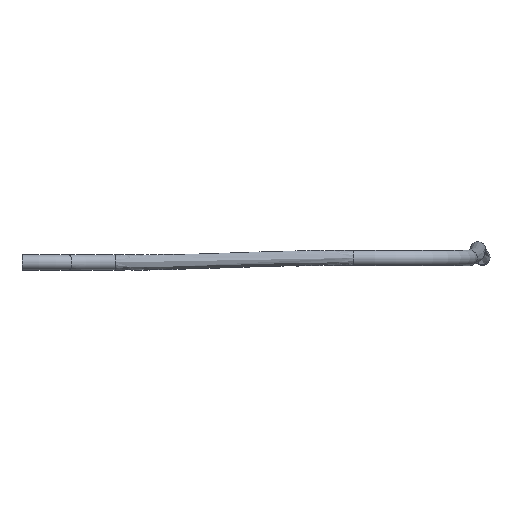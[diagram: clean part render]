
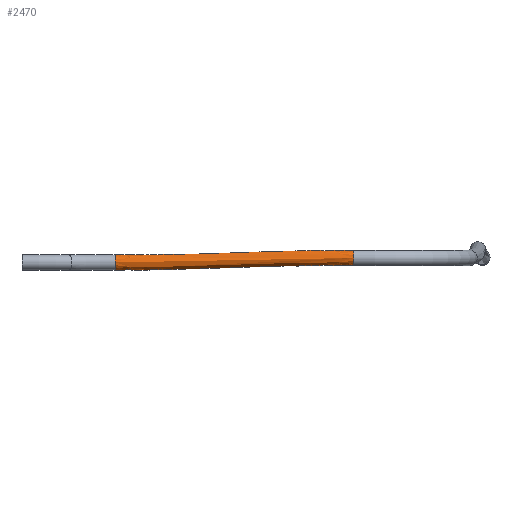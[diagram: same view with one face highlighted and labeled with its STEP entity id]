
A CAD part, front view. The second image highlights one B-rep face of the part: STEP entity #2470.
In plain terms, the highlighted free-form (B-spline) face has degree [6, 8] with [7, 9] control points.
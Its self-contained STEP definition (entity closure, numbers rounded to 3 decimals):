
#2449 = VERTEX_POINT('',#2450);
#2450 = CARTESIAN_POINT('',(-4.5,-16.412,1.387));
#2457 = EDGE_CURVE('',#2449,#2449,#2458,.T.);
#2458 = CIRCLE('',#2459,0.3);
#2459 = AXIS2_PLACEMENT_3D('',#2460,#2461,#2462);
#2460 = CARTESIAN_POINT('',(-4.5,-16.113,1.388));
#2461 = DIRECTION('',(1.,0.,0.));
#2462 = DIRECTION('',(0.,-1.,0.));
#2470 = ADVANCED_FACE('',(#2471),#2499,.T.);
#2471 = FACE_BOUND('',#2472,.T.);
#2472 = EDGE_LOOP('',(#2473,#2487,#2497,#2498));
#2473 = ORIENTED_EDGE('',*,*,#2474,.T.);
#2474 = EDGE_CURVE('',#2449,#2475,#2477,.T.);
#2475 = VERTEX_POINT('',#2476);
#2476 = CARTESIAN_POINT('',(-13.8,-16.412,1.212));
#2477 = ( BOUNDED_CURVE() B_SPLINE_CURVE(8,(#2478,#2479,#2480,#2481,
    #2482,#2483,#2484,#2485,#2486),.UNSPECIFIED.,.F.,.F.) 
B_SPLINE_CURVE_WITH_KNOTS((9,9),(0.,1.),.PIECEWISE_BEZIER_KNOTS.) CURVE(
) GEOMETRIC_REPRESENTATION_ITEM() RATIONAL_B_SPLINE_CURVE((
    1.669,1.669,1.669,1.669,
    1.669,1.669,1.669,1.669,
1.669)) REPRESENTATION_ITEM('') );
#2478 = CARTESIAN_POINT('',(-4.5,-16.412,1.387));
#2479 = CARTESIAN_POINT('',(-5.663,-16.412,1.387));
#2480 = CARTESIAN_POINT('',(-6.825,-16.412,
    1.387));
#2481 = CARTESIAN_POINT('',(-7.987,-16.412,
    1.356));
#2482 = CARTESIAN_POINT('',(-9.15,-16.412,
    1.3));
#2483 = CARTESIAN_POINT('',(-10.312,-16.412,
    1.244));
#2484 = CARTESIAN_POINT('',(-11.475,-16.412,
    1.212));
#2485 = CARTESIAN_POINT('',(-12.638,-16.412,1.212));
#2486 = CARTESIAN_POINT('',(-13.8,-16.412,1.212));
#2487 = ORIENTED_EDGE('',*,*,#2488,.F.);
#2488 = EDGE_CURVE('',#2475,#2475,#2489,.T.);
#2489 = ( BOUNDED_CURVE() B_SPLINE_CURVE(6,(#2490,#2491,#2492,#2493,
#2494,#2495,#2496),.UNSPECIFIED.,.T.,.F.) B_SPLINE_CURVE_WITH_KNOTS((1,6
    ,6,1),(-6.283,0.,6.283,12.566),
.UNSPECIFIED.) CURVE() GEOMETRIC_REPRESENTATION_ITEM() 
RATIONAL_B_SPLINE_CURVE((1.669,1.037,1.038,
    0.854,1.038,1.037,1.669)) 
REPRESENTATION_ITEM('') );
#2490 = CARTESIAN_POINT('',(-13.8,-16.412,1.212));
#2491 = CARTESIAN_POINT('',(-13.8,-16.413,1.711));
#2492 = CARTESIAN_POINT('',(-13.8,-15.797,1.783));
#2493 = CARTESIAN_POINT('',(-13.8,-15.288,1.213));
#2494 = CARTESIAN_POINT('',(-13.8,-15.796,0.643));
#2495 = CARTESIAN_POINT('',(-13.8,-16.412,0.714));
#2496 = CARTESIAN_POINT('',(-13.8,-16.412,1.212));
#2497 = ORIENTED_EDGE('',*,*,#2474,.F.);
#2498 = ORIENTED_EDGE('',*,*,#2457,.F.);
#2499 = ( BOUNDED_SURFACE() B_SPLINE_SURFACE(6,8,(
    (#2500,#2501,#2502,#2503,#2504,#2505,#2506,#2507,#2508)
    ,(#2509,#2510,#2511,#2512,#2513,#2514,#2515,#2516,#2517)
    ,(#2518,#2519,#2520,#2521,#2522,#2523,#2524,#2525,#2526)
    ,(#2527,#2528,#2529,#2530,#2531,#2532,#2533,#2534,#2535)
    ,(#2536,#2537,#2538,#2539,#2540,#2541,#2542,#2543,#2544)
    ,(#2545,#2546,#2547,#2548,#2549,#2550,#2551,#2552,#2553)
    ,(#2554,#2555,#2556,#2557,#2558,#2559,#2560,#2561,#2562
)),.UNSPECIFIED.,.T.,.F.,.F.) B_SPLINE_SURFACE_WITH_KNOTS((1,6,6,1),(9,9
    ),(-6.283,0.,6.283,12.566),(0.,1.),
.UNSPECIFIED.) GEOMETRIC_REPRESENTATION_ITEM() RATIONAL_B_SPLINE_SURFACE
((
    (1.669,1.669,1.669,1.669
      ,1.669,1.669,1.669,1.669
      ,1.669)
    ,(1.037,1.037,1.037,1.037
      ,1.037,1.037,1.037,1.037
      ,1.037)
    ,(1.038,1.038,1.038,1.038
      ,1.038,1.038,1.038,1.038
      ,1.038)
    ,(0.854,0.854,0.854,0.854
      ,0.854,0.854,0.854,0.854
      ,0.854)
    ,(1.038,1.038,1.038,1.038
      ,1.038,1.038,1.038,1.038
      ,1.038)
    ,(1.037,1.037,1.037,1.037
      ,1.037,1.037,1.037,1.037
      ,1.037)
    ,(1.669,1.669,1.669,1.669
      ,1.669,1.669,1.669,1.669
,1.669))) REPRESENTATION_ITEM('') SURFACE() );
#2500 = CARTESIAN_POINT('',(-4.5,-16.412,1.387));
#2501 = CARTESIAN_POINT('',(-5.663,-16.412,1.387));
#2502 = CARTESIAN_POINT('',(-6.825,-16.412,
    1.387));
#2503 = CARTESIAN_POINT('',(-7.987,-16.412,
    1.356));
#2504 = CARTESIAN_POINT('',(-9.15,-16.412,
    1.3));
#2505 = CARTESIAN_POINT('',(-10.312,-16.412,
    1.244));
#2506 = CARTESIAN_POINT('',(-11.475,-16.412,
    1.212));
#2507 = CARTESIAN_POINT('',(-12.638,-16.412,1.212));
#2508 = CARTESIAN_POINT('',(-13.8,-16.412,1.212));
#2509 = CARTESIAN_POINT('',(-4.5,-16.413,1.886));
#2510 = CARTESIAN_POINT('',(-5.663,-16.413,1.886));
#2511 = CARTESIAN_POINT('',(-6.835,-16.413,
    1.886));
#2512 = CARTESIAN_POINT('',(-8.008,-16.413,
    1.854));
#2513 = CARTESIAN_POINT('',(-9.174,-16.413,
    1.797));
#2514 = CARTESIAN_POINT('',(-10.333,-16.413,
    1.742));
#2515 = CARTESIAN_POINT('',(-11.485,-16.413,1.711
    ));
#2516 = CARTESIAN_POINT('',(-12.638,-16.413,1.711));
#2517 = CARTESIAN_POINT('',(-13.8,-16.413,1.711));
#2518 = CARTESIAN_POINT('',(-4.5,-15.797,1.958));
#2519 = CARTESIAN_POINT('',(-5.663,-15.797,1.958));
#2520 = CARTESIAN_POINT('',(-6.836,-15.797,
    1.958));
#2521 = CARTESIAN_POINT('',(-8.011,-15.797,
    1.927));
#2522 = CARTESIAN_POINT('',(-9.178,-15.797,
    1.869));
#2523 = CARTESIAN_POINT('',(-10.336,-15.797,
    1.814));
#2524 = CARTESIAN_POINT('',(-11.486,-15.797,
    1.783));
#2525 = CARTESIAN_POINT('',(-12.638,-15.797,1.783));
#2526 = CARTESIAN_POINT('',(-13.8,-15.797,1.783));
#2527 = CARTESIAN_POINT('',(-4.5,-15.288,1.388));
#2528 = CARTESIAN_POINT('',(-5.663,-15.288,1.388));
#2529 = CARTESIAN_POINT('',(-6.825,-15.288,
    1.388));
#2530 = CARTESIAN_POINT('',(-7.988,-15.288,
    1.357));
#2531 = CARTESIAN_POINT('',(-9.15,-15.288,
    1.301));
#2532 = CARTESIAN_POINT('',(-10.313,-15.288,
    1.244));
#2533 = CARTESIAN_POINT('',(-11.475,-15.288,
    1.213));
#2534 = CARTESIAN_POINT('',(-12.638,-15.288,1.213));
#2535 = CARTESIAN_POINT('',(-13.8,-15.288,1.213));
#2536 = CARTESIAN_POINT('',(-4.5,-15.796,0.818));
#2537 = CARTESIAN_POINT('',(-5.663,-15.796,0.818));
#2538 = CARTESIAN_POINT('',(-6.814,-15.796,
    0.818));
#2539 = CARTESIAN_POINT('',(-7.965,-15.796,
    0.786));
#2540 = CARTESIAN_POINT('',(-9.123,-15.796,
    0.732));
#2541 = CARTESIAN_POINT('',(-10.29,-15.796,
    0.674));
#2542 = CARTESIAN_POINT('',(-11.464,-15.796,
    0.643));
#2543 = CARTESIAN_POINT('',(-12.638,-15.796,0.643));
#2544 = CARTESIAN_POINT('',(-13.8,-15.796,0.643));
#2545 = CARTESIAN_POINT('',(-4.5,-16.412,0.889));
#2546 = CARTESIAN_POINT('',(-5.663,-16.412,0.889));
#2547 = CARTESIAN_POINT('',(-6.815,-16.412,
    0.889));
#2548 = CARTESIAN_POINT('',(-7.967,-16.412,
    0.858));
#2549 = CARTESIAN_POINT('',(-9.126,-16.412,
    0.802));
#2550 = CARTESIAN_POINT('',(-10.292,-16.412,
    0.745));
#2551 = CARTESIAN_POINT('',(-11.465,-16.412,
    0.714));
#2552 = CARTESIAN_POINT('',(-12.638,-16.412,0.714));
#2553 = CARTESIAN_POINT('',(-13.8,-16.412,0.714));
#2554 = CARTESIAN_POINT('',(-4.5,-16.412,1.387));
#2555 = CARTESIAN_POINT('',(-5.663,-16.412,1.387));
#2556 = CARTESIAN_POINT('',(-6.825,-16.412,
    1.387));
#2557 = CARTESIAN_POINT('',(-7.987,-16.412,
    1.356));
#2558 = CARTESIAN_POINT('',(-9.15,-16.412,
    1.3));
#2559 = CARTESIAN_POINT('',(-10.312,-16.412,
    1.244));
#2560 = CARTESIAN_POINT('',(-11.475,-16.412,
    1.212));
#2561 = CARTESIAN_POINT('',(-12.638,-16.412,1.212));
#2562 = CARTESIAN_POINT('',(-13.8,-16.412,1.212));
